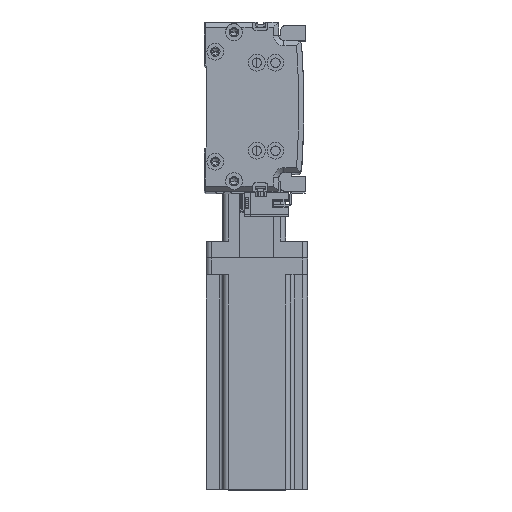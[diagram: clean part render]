
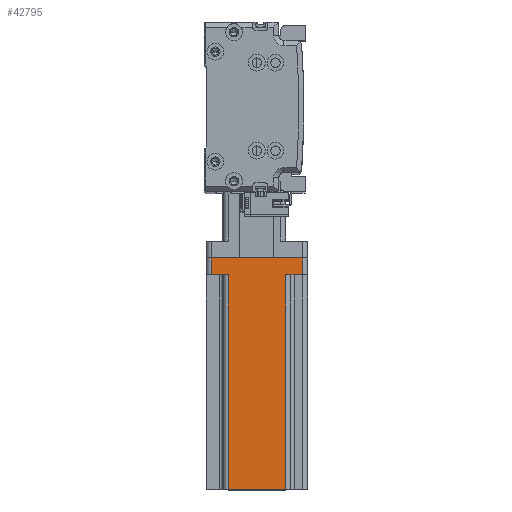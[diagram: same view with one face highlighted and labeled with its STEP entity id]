
A CAD part, top view. The second image highlights one B-rep face of the part: STEP entity #42795.
In plain terms, the highlighted planar face has unit normal (0, 0, 1) as drawn and (0, 1, 0) by its records, which use the part's own axes.
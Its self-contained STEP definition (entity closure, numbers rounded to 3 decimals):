
#186 = CARTESIAN_POINT ( 'NONE',  ( -17., 30., 137. ) ) ;
#302 = CARTESIAN_POINT ( 'NONE',  ( 20., 30., 10. ) ) ;
#1014 = CARTESIAN_POINT ( 'NONE',  ( -17., 30., 10. ) ) ;
#3057 = EDGE_CURVE ( 'NONE', #17444, #23130, #35845, .T. ) ;
#3787 = ORIENTED_EDGE ( 'NONE', *, *, #3057, .F. ) ;
#4569 = EDGE_CURVE ( 'NONE', #25358, #23130, #22399, .T. ) ;
#6321 = CARTESIAN_POINT ( 'NONE',  ( -27., 30., 0. ) ) ;
#8357 = DIRECTION ( 'NONE',  ( -1., 0., 0. ) ) ;
#8819 = LINE ( 'NONE', #37731, #28722 ) ;
#9162 = ORIENTED_EDGE ( 'NONE', *, *, #4569, .T. ) ;
#9185 = DIRECTION ( 'NONE',  ( 0., 0., 1. ) ) ;
#9446 = ORIENTED_EDGE ( 'NONE', *, *, #22253, .T. ) ;
#10154 = VERTEX_POINT ( 'NONE', #6321 ) ;
#10433 = CARTESIAN_POINT ( 'NONE',  ( 17., 30., 137. ) ) ;
#10800 = VECTOR ( 'NONE', #8357, 1000. ) ;
#11258 = VECTOR ( 'NONE', #44743, 1000. ) ;
#11825 = CARTESIAN_POINT ( 'NONE',  ( 30., 30., 137. ) ) ;
#12044 = EDGE_CURVE ( 'NONE', #14257, #20899, #19981, .T. ) ;
#12312 = DIRECTION ( 'NONE',  ( -1., 0., 0. ) ) ;
#12433 = VECTOR ( 'NONE', #35118, 1000. ) ;
#14209 = DIRECTION ( 'NONE',  ( 0., -1., 0. ) ) ;
#14257 = VERTEX_POINT ( 'NONE', #33394 ) ;
#15274 = DIRECTION ( 'NONE',  ( 1., 0., 0. ) ) ;
#15870 = CARTESIAN_POINT ( 'NONE',  ( 30., 30., 0. ) ) ;
#16327 = LINE ( 'NONE', #302, #17504 ) ;
#16494 = VERTEX_POINT ( 'NONE', #45214 ) ;
#17444 = VERTEX_POINT ( 'NONE', #43839 ) ;
#17504 = VECTOR ( 'NONE', #22781, 1000. ) ;
#18472 = ORIENTED_EDGE ( 'NONE', *, *, #12044, .T. ) ;
#19017 = FACE_OUTER_BOUND ( 'NONE', #23137, .T. ) ;
#19981 = LINE ( 'NONE', #33756, #11258 ) ;
#20363 = CARTESIAN_POINT ( 'NONE',  ( 27., 30., 0. ) ) ;
#20899 = VERTEX_POINT ( 'NONE', #20363 ) ;
#21577 = PLANE ( 'NONE',  #34573 ) ;
#22253 = EDGE_CURVE ( 'NONE', #17444, #16494, #28389, .T. ) ;
#22399 = LINE ( 'NONE', #37482, #12433 ) ;
#22781 = DIRECTION ( 'NONE',  ( -1., 0., 0. ) ) ;
#22979 = VECTOR ( 'NONE', #9185, 1000. ) ;
#23130 = VERTEX_POINT ( 'NONE', #186 ) ;
#23137 = EDGE_LOOP ( 'NONE', ( #40588, #9162, #3787, #9446, #38538, #18472, #33942, #34751 ) ) ;
#25358 = VERTEX_POINT ( 'NONE', #1014 ) ;
#27794 = EDGE_CURVE ( 'NONE', #10154, #35224, #42910, .T. ) ;
#28389 = LINE ( 'NONE', #10433, #47162 ) ;
#28722 = VECTOR ( 'NONE', #15274, 1000. ) ;
#32372 = CARTESIAN_POINT ( 'NONE',  ( -27., 30., 10. ) ) ;
#33368 = EDGE_CURVE ( 'NONE', #20899, #10154, #40685, .T. ) ;
#33394 = CARTESIAN_POINT ( 'NONE',  ( 27., 30., 10. ) ) ;
#33756 = CARTESIAN_POINT ( 'NONE',  ( 27., 30., 137. ) ) ;
#33942 = ORIENTED_EDGE ( 'NONE', *, *, #33368, .T. ) ;
#34573 = AXIS2_PLACEMENT_3D ( 'NONE', #36651, #14209, #40430 ) ;
#34751 = ORIENTED_EDGE ( 'NONE', *, *, #27794, .T. ) ;
#34850 = EDGE_CURVE ( 'NONE', #14257, #16494, #16327, .T. ) ;
#35118 = DIRECTION ( 'NONE',  ( 0., 0., 1. ) ) ;
#35224 = VERTEX_POINT ( 'NONE', #32372 ) ;
#35845 = LINE ( 'NONE', #11825, #47003 ) ;
#36651 = CARTESIAN_POINT ( 'NONE',  ( 30., 30., 137. ) ) ;
#37482 = CARTESIAN_POINT ( 'NONE',  ( -17., 30., 137. ) ) ;
#37731 = CARTESIAN_POINT ( 'NONE',  ( -20., 30., 10. ) ) ;
#38538 = ORIENTED_EDGE ( 'NONE', *, *, #34850, .F. ) ;
#40430 = DIRECTION ( 'NONE',  ( 1., 0., 0. ) ) ;
#40588 = ORIENTED_EDGE ( 'NONE', *, *, #40621, .T. ) ;
#40621 = EDGE_CURVE ( 'NONE', #35224, #25358, #8819, .T. ) ;
#40685 = LINE ( 'NONE', #15870, #10800 ) ;
#42595 = CARTESIAN_POINT ( 'NONE',  ( -27., 30., 137. ) ) ;
#42795 = ADVANCED_FACE ( 'NONE', ( #19017 ), #21577, .F. ) ;
#42910 = LINE ( 'NONE', #42595, #22979 ) ;
#43839 = CARTESIAN_POINT ( 'NONE',  ( 17., 30., 137. ) ) ;
#44127 = DIRECTION ( 'NONE',  ( 0., 0., -1. ) ) ;
#44743 = DIRECTION ( 'NONE',  ( 0., 0., -1. ) ) ;
#45214 = CARTESIAN_POINT ( 'NONE',  ( 17., 30., 10. ) ) ;
#47003 = VECTOR ( 'NONE', #12312, 1000. ) ;
#47162 = VECTOR ( 'NONE', #44127, 1000. ) ;
